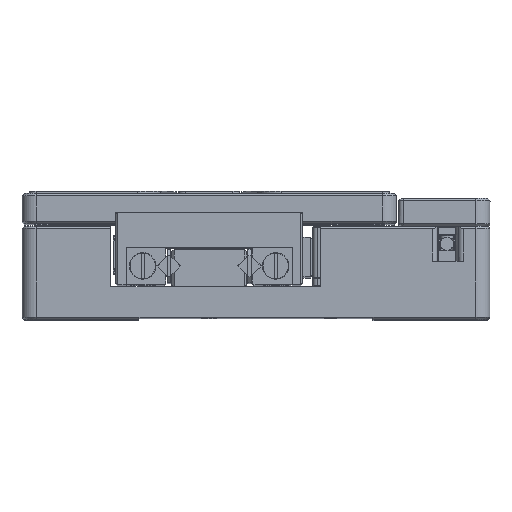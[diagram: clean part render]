
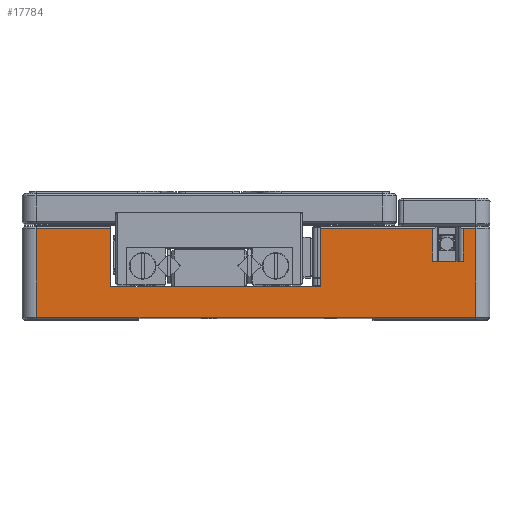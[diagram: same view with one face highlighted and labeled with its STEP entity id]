
A CAD part, top view. The second image highlights one B-rep face of the part: STEP entity #17784.
In plain terms, the highlighted planar face has unit normal (0, 0, 1).
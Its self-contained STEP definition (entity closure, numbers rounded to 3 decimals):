
#471 = ORIENTED_EDGE ( 'NONE', *, *, #3756, .T. ) ;
#568 = CARTESIAN_POINT ( 'NONE',  ( -31., -0.5, 77.5 ) ) ;
#579 = VERTEX_POINT ( 'NONE', #35331 ) ;
#607 = CARTESIAN_POINT ( 'NONE',  ( 25., -19.5, 77.5 ) ) ;
#1424 = DIRECTION ( 'NONE',  ( 1., 0., 0. ) ) ;
#1446 = EDGE_CURVE ( 'NONE', #23202, #24813, #26122, .T. ) ;
#1482 = CARTESIAN_POINT ( 'NONE',  ( 0., -19.5, 77.5 ) ) ;
#1560 = EDGE_CURVE ( 'NONE', #26152, #46183, #22531, .T. ) ;
#3732 = VERTEX_POINT ( 'NONE', #21820 ) ;
#3756 = EDGE_CURVE ( 'NONE', #46183, #24457, #36921, .T. ) ;
#3765 = AXIS2_PLACEMENT_3D ( 'NONE', #52191, #21312, #48309 ) ;
#4369 = VERTEX_POINT ( 'NONE', #43301 ) ;
#4716 = DIRECTION ( 'NONE',  ( 0., -1., 0. ) ) ;
#5062 = LINE ( 'NONE', #54357, #10257 ) ;
#5762 = VECTOR ( 'NONE', #50405, 1000. ) ;
#5778 = DIRECTION ( 'NONE',  ( -1., 0., 0. ) ) ;
#5867 = EDGE_CURVE ( 'NONE', #23436, #579, #36402, .T. ) ;
#8214 = ORIENTED_EDGE ( 'NONE', *, *, #38903, .T. ) ;
#8602 = CARTESIAN_POINT ( 'NONE',  ( 13.8, 0., 77.5 ) ) ;
#8629 = EDGE_LOOP ( 'NONE', ( #8214, #35627, #29912, #25681, #16167, #471, #35039, #48764, #33434, #12493, #11370, #48705, #50347, #53912 ) ) ;
#9073 = VECTOR ( 'NONE', #1424, 1000. ) ;
#10257 = VECTOR ( 'NONE', #54043, 1000. ) ;
#10262 = LINE ( 'NONE', #14723, #25490 ) ;
#10354 = EDGE_CURVE ( 'NONE', #20044, #26152, #57908, .T. ) ;
#10766 = VECTOR ( 'NONE', #47542, 1000. ) ;
#11370 = ORIENTED_EDGE ( 'NONE', *, *, #44451, .F. ) ;
#12471 = CARTESIAN_POINT ( 'NONE',  ( -47., 0., 77.5 ) ) ;
#12493 = ORIENTED_EDGE ( 'NONE', *, *, #41615, .T. ) ;
#14055 = VECTOR ( 'NONE', #19600, 1000. ) ;
#14131 = DIRECTION ( 'NONE',  ( 1., 0., 0. ) ) ;
#14305 = CARTESIAN_POINT ( 'NONE',  ( 37.75, 0., 77.5 ) ) ;
#14355 = VERTEX_POINT ( 'NONE', #39927 ) ;
#14723 = CARTESIAN_POINT ( 'NONE',  ( 47., 0., 77.5 ) ) ;
#15185 = LINE ( 'NONE', #43084, #10766 ) ;
#16074 = CARTESIAN_POINT ( 'NONE',  ( -50., -13., 77.5 ) ) ;
#16167 = ORIENTED_EDGE ( 'NONE', *, *, #1560, .T. ) ;
#16855 = EDGE_CURVE ( 'NONE', #579, #33723, #10262, .T. ) ;
#17258 = DIRECTION ( 'NONE',  ( -1., 0., 0. ) ) ;
#17784 = ADVANCED_FACE ( 'NONE', ( #42992 ), #53351, .T. ) ;
#19372 = CARTESIAN_POINT ( 'NONE',  ( 47., -0.5, 77.5 ) ) ;
#19600 = DIRECTION ( 'NONE',  ( -1., 0., 0. ) ) ;
#20044 = VERTEX_POINT ( 'NONE', #54676 ) ;
#21271 = EDGE_CURVE ( 'NONE', #4369, #20044, #41589, .T. ) ;
#21312 = DIRECTION ( 'NONE',  ( 0., 0., 1. ) ) ;
#21415 = EDGE_CURVE ( 'NONE', #33723, #14355, #15185, .T. ) ;
#21820 = CARTESIAN_POINT ( 'NONE',  ( -25., -19.5, 77.5 ) ) ;
#22531 = LINE ( 'NONE', #8602, #52507 ) ;
#23202 = VERTEX_POINT ( 'NONE', #33441 ) ;
#23339 = CARTESIAN_POINT ( 'NONE',  ( -50., -19.5, 77.5 ) ) ;
#23436 = VERTEX_POINT ( 'NONE', #607 ) ;
#24457 = VERTEX_POINT ( 'NONE', #48151 ) ;
#24813 = VERTEX_POINT ( 'NONE', #32975 ) ;
#25490 = VECTOR ( 'NONE', #51239, 1000. ) ;
#25681 = ORIENTED_EDGE ( 'NONE', *, *, #10354, .T. ) ;
#26017 = CARTESIAN_POINT ( 'NONE',  ( 44.25, 0., 77.5 ) ) ;
#26122 = LINE ( 'NONE', #12471, #40185 ) ;
#26152 = VERTEX_POINT ( 'NONE', #52341 ) ;
#29912 = ORIENTED_EDGE ( 'NONE', *, *, #21271, .T. ) ;
#32290 = LINE ( 'NONE', #33486, #5762 ) ;
#32975 = CARTESIAN_POINT ( 'NONE',  ( -47., -19.5, 77.5 ) ) ;
#33434 = ORIENTED_EDGE ( 'NONE', *, *, #1446, .T. ) ;
#33441 = CARTESIAN_POINT ( 'NONE',  ( -47., -0.5, 77.5 ) ) ;
#33486 = CARTESIAN_POINT ( 'NONE',  ( -50., -7.5, 77.5 ) ) ;
#33640 = CARTESIAN_POINT ( 'NONE',  ( 44.25, -7.5, 77.5 ) ) ;
#33723 = VERTEX_POINT ( 'NONE', #19372 ) ;
#35039 = ORIENTED_EDGE ( 'NONE', *, *, #44179, .T. ) ;
#35331 = CARTESIAN_POINT ( 'NONE',  ( 47., -19.5, 77.5 ) ) ;
#35627 = ORIENTED_EDGE ( 'NONE', *, *, #48235, .T. ) ;
#36343 = VERTEX_POINT ( 'NONE', #568 ) ;
#36402 = LINE ( 'NONE', #23339, #47612 ) ;
#36921 = LINE ( 'NONE', #16074, #43394 ) ;
#36931 = EDGE_CURVE ( 'NONE', #36343, #23202, #42197, .T. ) ;
#38156 = VECTOR ( 'NONE', #51109, 1000. ) ;
#38903 = EDGE_CURVE ( 'NONE', #14355, #57366, #56604, .T. ) ;
#39927 = CARTESIAN_POINT ( 'NONE',  ( 44.25, -0.5, 77.5 ) ) ;
#40185 = VECTOR ( 'NONE', #43632, 1000. ) ;
#41027 = CARTESIAN_POINT ( 'NONE',  ( 13.8, -13., 77.5 ) ) ;
#41198 = LINE ( 'NONE', #50111, #9073 ) ;
#41589 = LINE ( 'NONE', #14305, #51488 ) ;
#41615 = EDGE_CURVE ( 'NONE', #24813, #3732, #41198, .T. ) ;
#42197 = LINE ( 'NONE', #46662, #38156 ) ;
#42992 = FACE_OUTER_BOUND ( 'NONE', #8629, .T. ) ;
#43084 = CARTESIAN_POINT ( 'NONE',  ( -50., -0.5, 77.5 ) ) ;
#43301 = CARTESIAN_POINT ( 'NONE',  ( 37.75, -7.5, 77.5 ) ) ;
#43394 = VECTOR ( 'NONE', #5778, 1000. ) ;
#43632 = DIRECTION ( 'NONE',  ( 0., -1., 0. ) ) ;
#44179 = EDGE_CURVE ( 'NONE', #24457, #36343, #5062, .T. ) ;
#44326 = VECTOR ( 'NONE', #17258, 1000. ) ;
#44451 = EDGE_CURVE ( 'NONE', #23436, #3732, #46608, .T. ) ;
#46183 = VERTEX_POINT ( 'NONE', #41027 ) ;
#46608 = LINE ( 'NONE', #1482, #14055 ) ;
#46662 = CARTESIAN_POINT ( 'NONE',  ( -50., -0.5, 77.5 ) ) ;
#47542 = DIRECTION ( 'NONE',  ( -1., 0., 0. ) ) ;
#47612 = VECTOR ( 'NONE', #14131, 1000. ) ;
#48151 = CARTESIAN_POINT ( 'NONE',  ( -31., -13., 77.5 ) ) ;
#48235 = EDGE_CURVE ( 'NONE', #57366, #4369, #32290, .T. ) ;
#48309 = DIRECTION ( 'NONE',  ( 1., 0., 0. ) ) ;
#48705 = ORIENTED_EDGE ( 'NONE', *, *, #5867, .T. ) ;
#48764 = ORIENTED_EDGE ( 'NONE', *, *, #36931, .T. ) ;
#49345 = DIRECTION ( 'NONE',  ( 0., 1., 0. ) ) ;
#50111 = CARTESIAN_POINT ( 'NONE',  ( -50., -19.5, 77.5 ) ) ;
#50347 = ORIENTED_EDGE ( 'NONE', *, *, #16855, .T. ) ;
#50405 = DIRECTION ( 'NONE',  ( -1., 0., 0. ) ) ;
#51109 = DIRECTION ( 'NONE',  ( -1., 0., 0. ) ) ;
#51239 = DIRECTION ( 'NONE',  ( 0., 1., 0. ) ) ;
#51488 = VECTOR ( 'NONE', #49345, 1000. ) ;
#52191 = CARTESIAN_POINT ( 'NONE',  ( -50., 0., 77.5 ) ) ;
#52341 = CARTESIAN_POINT ( 'NONE',  ( 13.8, -0.5, 77.5 ) ) ;
#52453 = DIRECTION ( 'NONE',  ( 0., -1., 0. ) ) ;
#52507 = VECTOR ( 'NONE', #4716, 1000. ) ;
#52541 = VECTOR ( 'NONE', #52453, 1000. ) ;
#53351 = PLANE ( 'NONE',  #3765 ) ;
#53912 = ORIENTED_EDGE ( 'NONE', *, *, #21415, .T. ) ;
#54043 = DIRECTION ( 'NONE',  ( 0., 1., 0. ) ) ;
#54357 = CARTESIAN_POINT ( 'NONE',  ( -31., 0., 77.5 ) ) ;
#54365 = CARTESIAN_POINT ( 'NONE',  ( -50., -0.5, 77.5 ) ) ;
#54676 = CARTESIAN_POINT ( 'NONE',  ( 37.75, -0.5, 77.5 ) ) ;
#56604 = LINE ( 'NONE', #26017, #52541 ) ;
#57366 = VERTEX_POINT ( 'NONE', #33640 ) ;
#57908 = LINE ( 'NONE', #54365, #44326 ) ;
